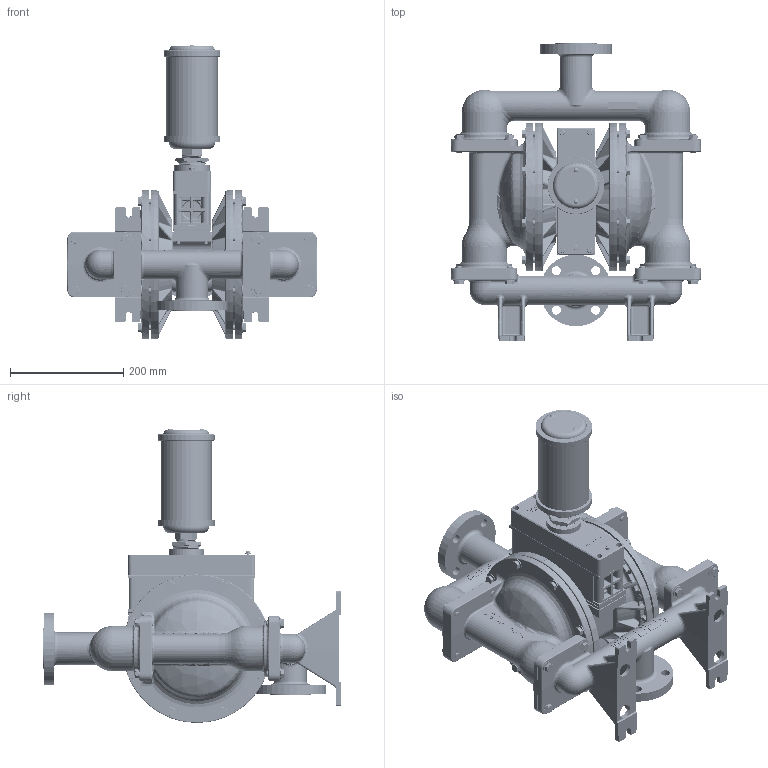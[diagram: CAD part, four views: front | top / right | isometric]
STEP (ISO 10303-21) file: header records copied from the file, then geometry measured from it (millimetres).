
FILE_DESCRIPTION (( 'STEP AP203' ), '1' );
FILE_NAME ('PS430_ADV_SS_ANSI.STEP', '2022-06-07T08:59:57', ( '' ), ( '' ), 'SwSTEP 2.0', 'SolidWorks 2019', '' );
FILE_SCHEMA (( 'CONFIG_CONTROL_DESIGN' ));
Length unit declared in the file: inch
Products named in the file (1): PS430_ADV_SS_ANSI
Bounding box: 443.47 x 526.03 x 521.14 mm (x, y, z)
Volume: 15449323 mm3; surface area: 1158704 mm2
Topology: 1 solids, 1 shells, 9850 faces, 24589 edges, 15071 vertices
Faces by surface type: plane 4421, bspline 2224, cylinder 1221, cone 801, torus 793, sphere 390
Entity records: 657920 total; most frequent: CARTESIAN_POINT 440960, ORIENTED_EDGE 49134, DIRECTION 39683, EDGE_CURVE 24567, VERTEX_POINT 15063, AXIS2_PLACEMENT_3D 13920, LINE 11843, VECTOR 11843
